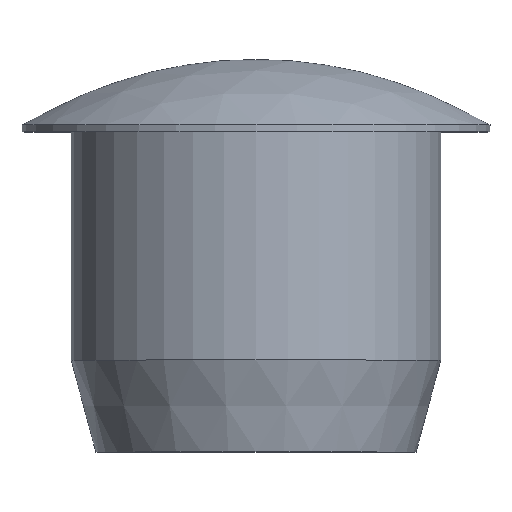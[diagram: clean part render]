
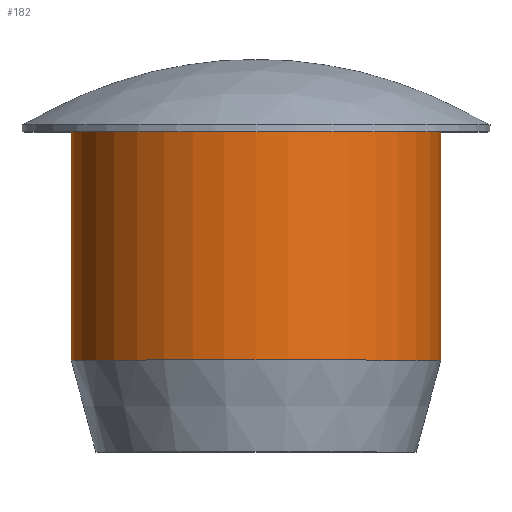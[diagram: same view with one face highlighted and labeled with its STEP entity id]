
A CAD part, top view. The second image highlights one B-rep face of the part: STEP entity #182.
In plain terms, the highlighted cylindrical face has radius 3.75 mm (diameter 7.5 mm), a full revolution.
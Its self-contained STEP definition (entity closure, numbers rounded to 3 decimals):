
#13 = DIRECTION ( 'NONE',  ( 0., 1., 0. ) ) ;
#26 = ORIENTED_EDGE ( 'NONE', *, *, #138, .F. ) ;
#43 = DIRECTION ( 'NONE',  ( -1., 0., 0. ) ) ;
#44 = EDGE_CURVE ( 'NONE', #66, #66, #46, .T. ) ;
#46 = CIRCLE ( 'NONE', #134, 3.75 ) ;
#56 = ORIENTED_EDGE ( 'NONE', *, *, #44, .T. ) ;
#65 = DIRECTION ( 'NONE',  ( 0., 1., 0. ) ) ;
#66 = VERTEX_POINT ( 'NONE', #162 ) ;
#68 = VERTEX_POINT ( 'NONE', #136 ) ;
#78 = DIRECTION ( 'NONE',  ( -1., 0., 0. ) ) ;
#79 = DIRECTION ( 'NONE',  ( 0., 1., 0. ) ) ;
#80 = CYLINDRICAL_SURFACE ( 'NONE', #149, 3.75 ) ;
#89 = EDGE_LOOP ( 'NONE', ( #56 ) ) ;
#90 = CARTESIAN_POINT ( 'NONE',  ( 0., 41.006, 0. ) ) ;
#97 = EDGE_LOOP ( 'NONE', ( #26 ) ) ;
#104 = CARTESIAN_POINT ( 'NONE',  ( 0., -4.634, 0. ) ) ;
#105 = FACE_OUTER_BOUND ( 'NONE', #97, .T. ) ;
#109 = CIRCLE ( 'NONE', #124, 3.75 ) ;
#112 = FACE_OUTER_BOUND ( 'NONE', #89, .T. ) ;
#124 = AXIS2_PLACEMENT_3D ( 'NONE', #158, #65, #175 ) ;
#134 = AXIS2_PLACEMENT_3D ( 'NONE', #104, #79, #43 ) ;
#136 = CARTESIAN_POINT ( 'NONE',  ( -3.75, 0., 0. ) ) ;
#138 = EDGE_CURVE ( 'NONE', #68, #68, #109, .T. ) ;
#149 = AXIS2_PLACEMENT_3D ( 'NONE', #90, #13, #78 ) ;
#158 = CARTESIAN_POINT ( 'NONE',  ( 0., 0., 0. ) ) ;
#162 = CARTESIAN_POINT ( 'NONE',  ( -3.75, -4.634, 0. ) ) ;
#175 = DIRECTION ( 'NONE',  ( -1., 0., 0. ) ) ;
#182 = ADVANCED_FACE ( 'NONE', ( #112, #105 ), #80, .T. ) ;
